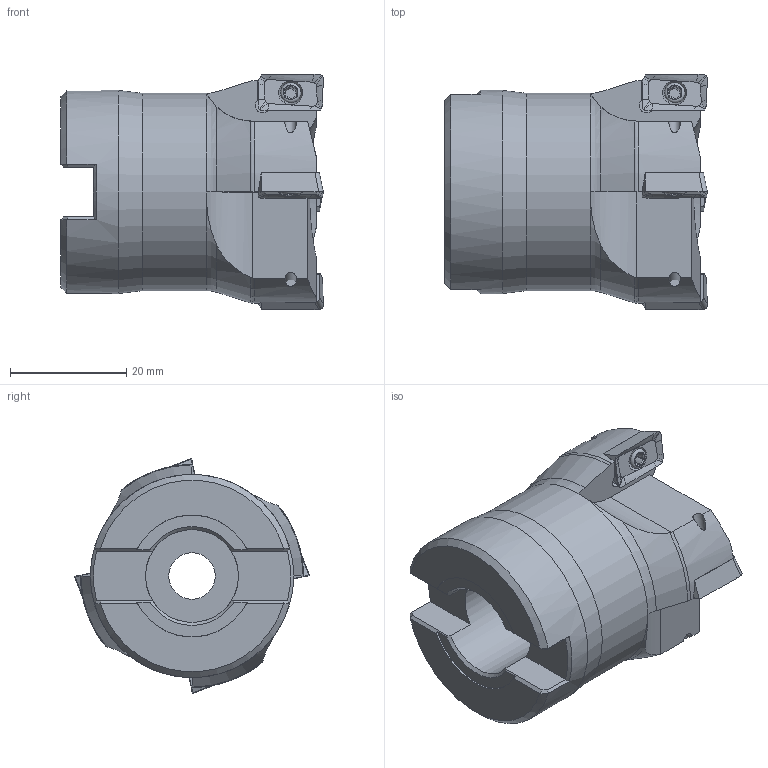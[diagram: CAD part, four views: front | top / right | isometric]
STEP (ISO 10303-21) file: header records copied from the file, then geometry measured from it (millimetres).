
FILE_DESCRIPTION(/* description */ (''),/* implementation_level */ '2;1');
FILE_NAME(/* name */ '',/* time_stamp */ '2024-07-03T10:51:47+03:00',/* author */ ('KanaanMD'),/* organization */ (''),/* preprocessor_version */ 'ST-DEVELOPER v19.2',/* originating_system */ 'Autodesk Inventor 2024',/* authorisation */ '');
FILE_SCHEMA (('AUTOMOTIVE_DESIGN { 1 0 10303 214 3 1 1 }'));
Length unit declared in the file: millimetre
Products named in the file (4): Сборка1; EAP300R-40-16-4T; Напайка; болт
Assembly tree (9 placements, depth 2):
  Сборка1
    EAP300R-40-16-4T
    Напайка  x4
    болт  x4
Bounding box: 45.21 x 40.54 x 40.54 mm (x, y, z)
Volume: 31583 mm3; surface area: 10164 mm2
Topology: 9 solids, 9 shells, 360 faces, 975 edges, 626 vertices
Faces by surface type: plane 125, cylinder 87, cone 68, bspline 68, torus 12
Full cylindrical faces by diameter (mm): 2.013 x4, 2.5 x8, 8 x1, 14 x1, 16 x1, 34 x1, 35 x1
Entity records: 6189 total; most frequent: CARTESIAN_POINT 1877, ORIENTED_EDGE 906, DIRECTION 865, EDGE_CURVE 453, AXIS2_PLACEMENT_3D 346, VERTEX_POINT 293, LINE 173, VECTOR 173
